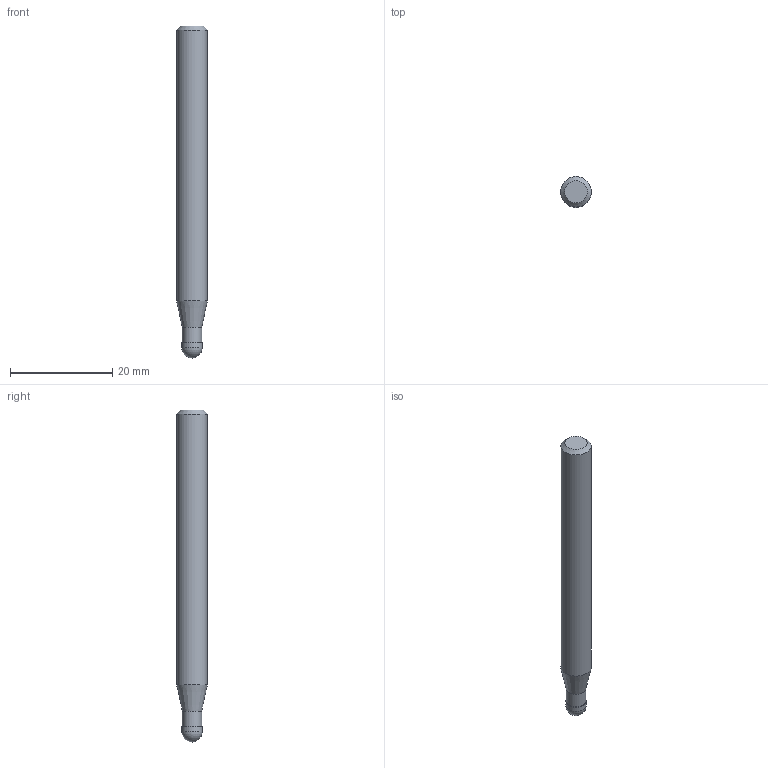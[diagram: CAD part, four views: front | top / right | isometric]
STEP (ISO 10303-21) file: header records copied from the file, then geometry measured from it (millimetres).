
FILE_DESCRIPTION((''),'2;1');
FILE_NAME('C:\Users\nsx150\AppData\Local\Temp\Mastercam 2021\ARV7HD45SN\TEMP.step','2023-06-13T16:38:56',(''),(''),'STEP Write','Mastercam 2021 ... CNC Software, Inc.','');
FILE_SCHEMA(('AUTOMOTIVE_DESIGN'));
Length unit declared in the file: millimetre
Products named in the file (1): None
Bounding box: 6 x 6 x 65 mm (x, y, z)
Volume: 1678.9 mm3; surface area: 1212 mm2
Topology: 2 solids, 2 shells, 9 faces, 14 edges, 8 vertices
Faces by surface type: plane 3, cylinder 3, cone 2, sphere 1
Full cylindrical faces by diameter (mm): 3.8 x1, 4 x1, 6 x1
Entity records: 211 total; most frequent: DIRECTION 36, CARTESIAN_POINT 25, AXIS2_PLACEMENT_3D 18, ORIENTED_EDGE 14, EDGE_LOOP 14, STYLED_ITEM 12, ADVANCED_FACE 9, FACE_BOUND 8
